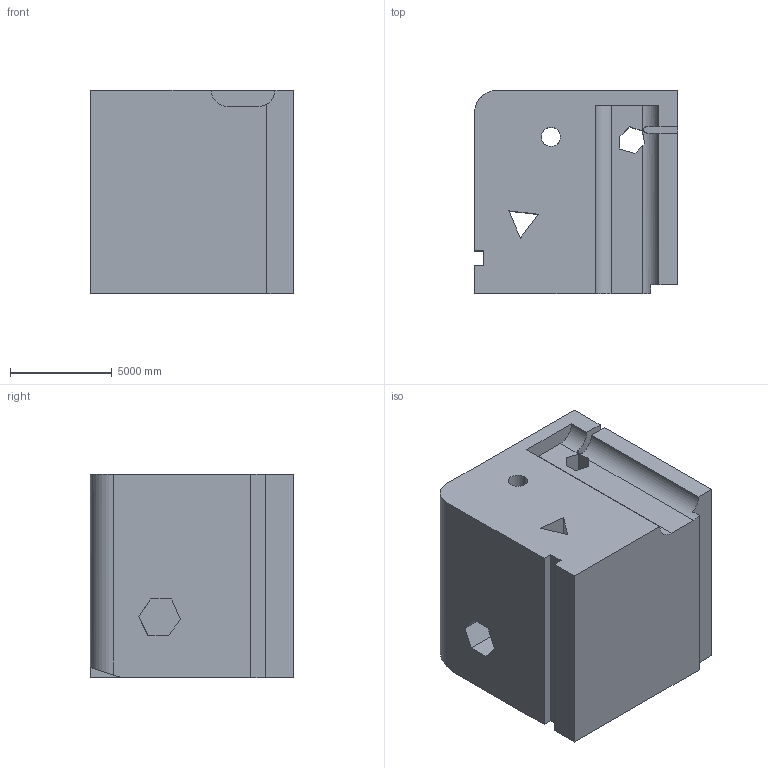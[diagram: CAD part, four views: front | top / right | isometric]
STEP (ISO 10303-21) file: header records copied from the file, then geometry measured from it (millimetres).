
FILE_DESCRIPTION (( 'STEP AP203' ), '1' );
FILE_NAME ('93.STEP', '2022-09-02T14:12:10', ( 'user' ), ( '' ), 'SwSTEP 2.0', 'SolidWorks 2021', '' );
FILE_SCHEMA (( 'CONFIG_CONTROL_DESIGN' ));
Length unit declared in the file: centimetre
Products named in the file (1): 93
Bounding box: 10000 x 10000 x 10000 mm (x, y, z)
Volume: 923737368594.4 mm3; surface area: 758714479 mm2
Topology: 1 solids, 1 shells, 42 faces, 123 edges, 82 vertices
Faces by surface type: plane 36, cylinder 6
Entity records: 1570 total; most frequent: CARTESIAN_POINT 362, ORIENTED_EDGE 246, DIRECTION 216, EDGE_CURVE 123, LINE 104, VECTOR 104, VERTEX_POINT 82, AXIS2_PLACEMENT_3D 56
